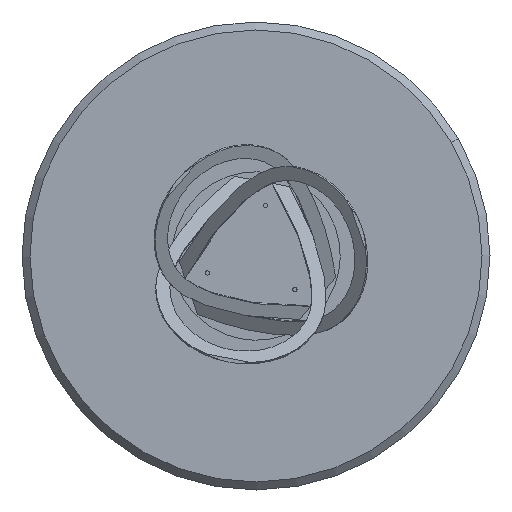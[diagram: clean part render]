
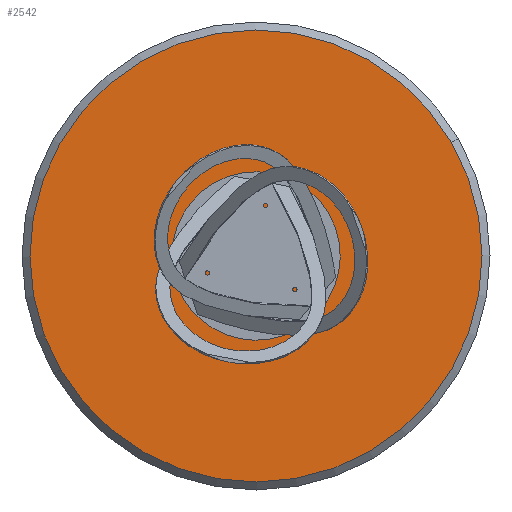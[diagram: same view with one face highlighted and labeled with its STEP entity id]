
A CAD part, front view. The second image highlights one B-rep face of the part: STEP entity #2542.
In plain terms, the highlighted planar face has unit normal (0, -1, 0).
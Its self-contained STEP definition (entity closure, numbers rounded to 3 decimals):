
#63 = CIRCLE ( 'NONE', #1942, 3.4 ) ;
#86 = CARTESIAN_POINT ( 'NONE',  ( 0., 0., 0. ) ) ;
#89 = ORIENTED_EDGE ( 'NONE', *, *, #2153, .F. ) ;
#98 = FACE_BOUND ( 'NONE', #2644, .T. ) ;
#106 = VERTEX_POINT ( 'NONE', #2887 ) ;
#121 = DIRECTION ( 'NONE',  ( 0., 0., -1. ) ) ;
#154 = VERTEX_POINT ( 'NONE', #1628 ) ;
#164 = EDGE_CURVE ( 'NONE', #2518, #2375, #2400, .T. ) ;
#171 = EDGE_CURVE ( 'NONE', #106, #252, #1757, .T. ) ;
#177 = EDGE_LOOP ( 'NONE', ( #186, #2085 ) ) ;
#186 = ORIENTED_EDGE ( 'NONE', *, *, #2355, .F. ) ;
#216 = CIRCLE ( 'NONE', #2416, 3.4 ) ;
#236 = EDGE_CURVE ( 'NONE', #428, #1791, #63, .T. ) ;
#251 = CIRCLE ( 'NONE', #484, 483. ) ;
#252 = VERTEX_POINT ( 'NONE', #984 ) ;
#269 = ORIENTED_EDGE ( 'NONE', *, *, #164, .F. ) ;
#387 = ORIENTED_EDGE ( 'NONE', *, *, #1072, .T. ) ;
#428 = VERTEX_POINT ( 'NONE', #1279 ) ;
#484 = AXIS2_PLACEMENT_3D ( 'NONE', #1390, #2568, #1883 ) ;
#485 = EDGE_LOOP ( 'NONE', ( #387, #1596 ) ) ;
#525 = DIRECTION ( 'NONE',  ( 0., 0., -1. ) ) ;
#528 = AXIS2_PLACEMENT_3D ( 'NONE', #814, #2124, #121 ) ;
#548 = DIRECTION ( 'NONE',  ( 0., 0., -1. ) ) ;
#558 = EDGE_LOOP ( 'NONE', ( #1617, #635 ) ) ;
#629 = AXIS2_PLACEMENT_3D ( 'NONE', #1401, #2752, #754 ) ;
#635 = ORIENTED_EDGE ( 'NONE', *, *, #171, .F. ) ;
#641 = CARTESIAN_POINT ( 'NONE',  ( 0., 0., 109.697 ) ) ;
#645 = CIRCLE ( 'NONE', #785, 3.4 ) ;
#662 = CARTESIAN_POINT ( 'NONE',  ( 0., 0., 106.297 ) ) ;
#702 = VERTEX_POINT ( 'NONE', #2156 ) ;
#750 = CARTESIAN_POINT ( 'NONE',  ( 95., 0., -54.848 ) ) ;
#754 = DIRECTION ( 'NONE',  ( 0., 0., -1. ) ) ;
#785 = AXIS2_PLACEMENT_3D ( 'NONE', #2657, #2412, #888 ) ;
#814 = CARTESIAN_POINT ( 'NONE',  ( -95., 0., -54.848 ) ) ;
#853 = PLANE ( 'NONE',  #1626 ) ;
#855 = CARTESIAN_POINT ( 'NONE',  ( 0., 0., 0. ) ) ;
#888 = DIRECTION ( 'NONE',  ( 0., 0., -1. ) ) ;
#984 = CARTESIAN_POINT ( 'NONE',  ( -95., 0., -58.248 ) ) ;
#996 = FACE_OUTER_BOUND ( 'NONE', #485, .T. ) ;
#1072 = EDGE_CURVE ( 'NONE', #154, #1730, #1890, .T. ) ;
#1089 = CARTESIAN_POINT ( 'NONE',  ( 95., 0., -58.248 ) ) ;
#1092 = EDGE_CURVE ( 'NONE', #1730, #154, #251, .T. ) ;
#1141 = EDGE_LOOP ( 'NONE', ( #89, #269 ) ) ;
#1185 = CARTESIAN_POINT ( 'NONE',  ( -95., 0., -54.848 ) ) ;
#1258 = DIRECTION ( 'NONE',  ( 0., -1., 0. ) ) ;
#1279 = CARTESIAN_POINT ( 'NONE',  ( 95., 0., -51.448 ) ) ;
#1303 = EDGE_CURVE ( 'NONE', #252, #106, #2247, .T. ) ;
#1335 = DIRECTION ( 'NONE',  ( 0., -1., 0. ) ) ;
#1337 = AXIS2_PLACEMENT_3D ( 'NONE', #1185, #2099, #2297 ) ;
#1378 = EDGE_CURVE ( 'NONE', #702, #2712, #2210, .T. ) ;
#1390 = CARTESIAN_POINT ( 'NONE',  ( 0., 0., 0. ) ) ;
#1401 = CARTESIAN_POINT ( 'NONE',  ( 0., 0., 0. ) ) ;
#1486 = CARTESIAN_POINT ( 'NONE',  ( 0., 0., -483. ) ) ;
#1596 = ORIENTED_EDGE ( 'NONE', *, *, #1092, .T. ) ;
#1617 = ORIENTED_EDGE ( 'NONE', *, *, #1303, .F. ) ;
#1626 = AXIS2_PLACEMENT_3D ( 'NONE', #2856, #1335, #2668 ) ;
#1628 = CARTESIAN_POINT ( 'NONE',  ( 0., 0., 483. ) ) ;
#1641 = DIRECTION ( 'NONE',  ( 0., -1., 0. ) ) ;
#1651 = FACE_BOUND ( 'NONE', #558, .T. ) ;
#1730 = VERTEX_POINT ( 'NONE', #1486 ) ;
#1749 = DIRECTION ( 'NONE',  ( 0., -1., 0. ) ) ;
#1757 = CIRCLE ( 'NONE', #1337, 3.4 ) ;
#1761 = ORIENTED_EDGE ( 'NONE', *, *, #2642, .F. ) ;
#1791 = VERTEX_POINT ( 'NONE', #1089 ) ;
#1861 = CIRCLE ( 'NONE', #2217, 3.4 ) ;
#1883 = DIRECTION ( 'NONE',  ( 0., 0., -1. ) ) ;
#1890 = CIRCLE ( 'NONE', #629, 483. ) ;
#1942 = AXIS2_PLACEMENT_3D ( 'NONE', #750, #1641, #525 ) ;
#2068 = ORIENTED_EDGE ( 'NONE', *, *, #236, .F. ) ;
#2085 = ORIENTED_EDGE ( 'NONE', *, *, #1378, .F. ) ;
#2099 = DIRECTION ( 'NONE',  ( 0., -1., 0. ) ) ;
#2124 = DIRECTION ( 'NONE',  ( 0., -1., 0. ) ) ;
#2139 = CARTESIAN_POINT ( 'NONE',  ( 0., 0., -3.4 ) ) ;
#2153 = EDGE_CURVE ( 'NONE', #2375, #2518, #216, .T. ) ;
#2156 = CARTESIAN_POINT ( 'NONE',  ( 0., 0., 113.097 ) ) ;
#2182 = DIRECTION ( 'NONE',  ( 0., -1., 0. ) ) ;
#2210 = CIRCLE ( 'NONE', #2731, 3.4 ) ;
#2217 = AXIS2_PLACEMENT_3D ( 'NONE', #2617, #1258, #548 ) ;
#2222 = DIRECTION ( 'NONE',  ( 0., 0., -1. ) ) ;
#2247 = CIRCLE ( 'NONE', #528, 3.4 ) ;
#2272 = DIRECTION ( 'NONE',  ( 0., 0., -1. ) ) ;
#2296 = CARTESIAN_POINT ( 'NONE',  ( 0., 0., 3.4 ) ) ;
#2297 = DIRECTION ( 'NONE',  ( 0., 0., -1. ) ) ;
#2355 = EDGE_CURVE ( 'NONE', #2712, #702, #1861, .T. ) ;
#2375 = VERTEX_POINT ( 'NONE', #2139 ) ;
#2400 = CIRCLE ( 'NONE', #2538, 3.4 ) ;
#2412 = DIRECTION ( 'NONE',  ( 0., -1., 0. ) ) ;
#2416 = AXIS2_PLACEMENT_3D ( 'NONE', #855, #1749, #2639 ) ;
#2518 = VERTEX_POINT ( 'NONE', #2296 ) ;
#2538 = AXIS2_PLACEMENT_3D ( 'NONE', #86, #2764, #2272 ) ;
#2541 = FACE_BOUND ( 'NONE', #177, .T. ) ;
#2542 = ADVANCED_FACE ( 'NONE', ( #1651, #2541, #98, #996, #2779 ), #853, .T. ) ;
#2568 = DIRECTION ( 'NONE',  ( 0., -1., 0. ) ) ;
#2617 = CARTESIAN_POINT ( 'NONE',  ( 0., 0., 109.697 ) ) ;
#2639 = DIRECTION ( 'NONE',  ( 0., 0., -1. ) ) ;
#2642 = EDGE_CURVE ( 'NONE', #1791, #428, #645, .T. ) ;
#2644 = EDGE_LOOP ( 'NONE', ( #1761, #2068 ) ) ;
#2657 = CARTESIAN_POINT ( 'NONE',  ( 95., 0., -54.848 ) ) ;
#2668 = DIRECTION ( 'NONE',  ( 0., 0., -1. ) ) ;
#2712 = VERTEX_POINT ( 'NONE', #662 ) ;
#2731 = AXIS2_PLACEMENT_3D ( 'NONE', #641, #2182, #2222 ) ;
#2752 = DIRECTION ( 'NONE',  ( 0., -1., 0. ) ) ;
#2764 = DIRECTION ( 'NONE',  ( 0., -1., 0. ) ) ;
#2779 = FACE_BOUND ( 'NONE', #1141, .T. ) ;
#2856 = CARTESIAN_POINT ( 'NONE',  ( 0., 0., 0. ) ) ;
#2887 = CARTESIAN_POINT ( 'NONE',  ( -95., 0., -51.448 ) ) ;
